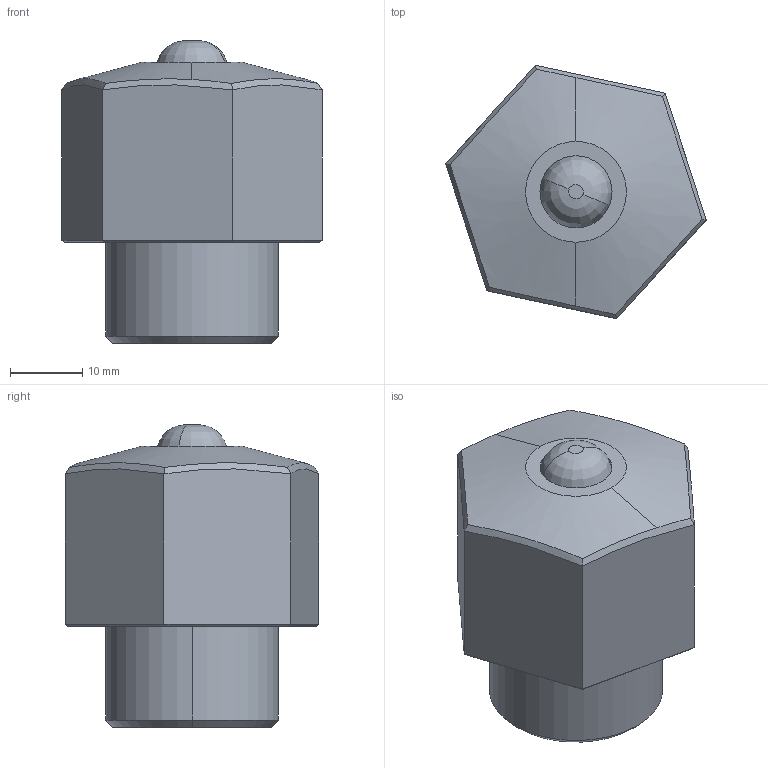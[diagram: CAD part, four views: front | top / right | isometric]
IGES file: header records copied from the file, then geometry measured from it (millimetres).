
Start section: SolidWorks IGES file using analytic representation for surfaces
Global section: file name: F:\TO4C-THREADED BODY-PUSHER\TO4C-M242.IGS; native system: SolidWorks 2019; preprocessor: SolidWorks 2019; author: ADMIN; date: 200802.104708; units: millimetre
Bounding box: 36.12 x 35.17 x 42 mm (x, y, z)
Volume: 26762.4 mm3; surface area: 7529.3 mm2
Topology: 2 solids, 2 shells, 44 faces, 90 edges, 54 vertices
Faces by surface type: plane 20, revolution 18, bspline 6
